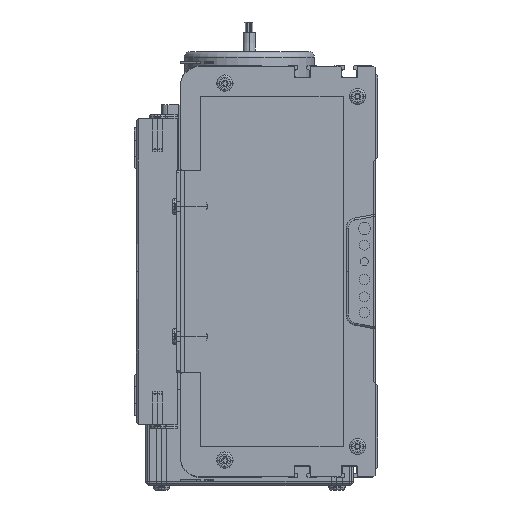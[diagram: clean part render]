
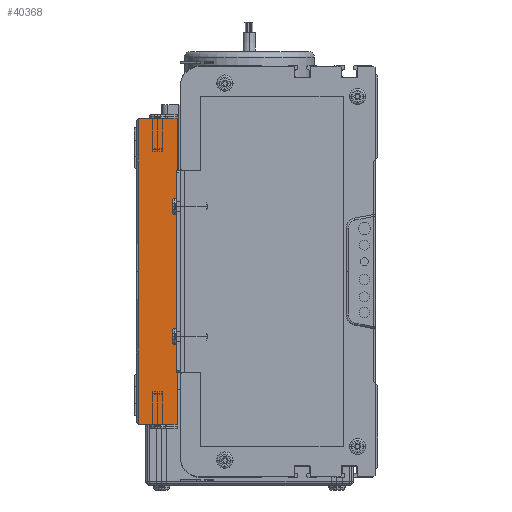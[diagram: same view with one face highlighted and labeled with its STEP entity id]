
A CAD part, left-side view. The second image highlights one B-rep face of the part: STEP entity #40368.
In plain terms, the highlighted planar face has unit normal (-1, 0, 0).
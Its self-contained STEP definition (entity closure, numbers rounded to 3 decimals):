
#32960 = DIRECTION ( 'NONE',  ( 0., 0., -1. ) ) ;
#32962 = DIRECTION ( 'NONE',  ( 1., 0., 0. ) ) ;
#32964 = CARTESIAN_POINT ( 'NONE',  ( 0., 20., 0. ) ) ;
#33014 = PLANE ( 'NONE',  #33018 ) ;
#33018 = AXIS2_PLACEMENT_3D ( 'NONE', #32964, #32962, #32960 ) ;
#33042 = FACE_OUTER_BOUND ( 'NONE', #40386, .T. ) ;
#33068 = DIRECTION ( 'NONE',  ( 0., 0., -1. ) ) ;
#33070 = VECTOR ( 'NONE', #33068, 1000. ) ;
#33072 = CARTESIAN_POINT ( 'NONE',  ( 0., 19., 0. ) ) ;
#33115 = LINE ( 'NONE', #33072, #33070 ) ;
#33118 = DIRECTION ( 'NONE',  ( 0., -1., 0. ) ) ;
#33119 = VECTOR ( 'NONE', #33118, 1000. ) ;
#33120 = CARTESIAN_POINT ( 'NONE',  ( 0., 20., -75. ) ) ;
#33121 = LINE ( 'NONE', #33120, #33119 ) ;
#33151 = VECTOR ( 'NONE', #33272, 1000. ) ;
#33153 = CARTESIAN_POINT ( 'NONE',  ( 0., 0., 0. ) ) ;
#33233 = LINE ( 'NONE', #33153, #33151 ) ;
#33261 = CARTESIAN_POINT ( 'NONE',  ( 0., 0., -75. ) ) ;
#33272 = DIRECTION ( 'NONE',  ( 0., 0., 1. ) ) ;
#33290 = CARTESIAN_POINT ( 'NONE',  ( 0., 19., -75. ) ) ;
#33376 = DIRECTION ( 'NONE',  ( 0., 0., -1. ) ) ;
#33385 = VECTOR ( 'NONE', #33376, 1000. ) ;
#33386 = CARTESIAN_POINT ( 'NONE',  ( 0., 19., 0. ) ) ;
#33391 = CARTESIAN_POINT ( 'NONE',  ( 0., 19., 0. ) ) ;
#33392 = LINE ( 'NONE', #33386, #33385 ) ;
#33811 = LINE ( 'NONE', #34019, #33831 ) ;
#33830 = DIRECTION ( 'NONE',  ( 0., -1., 0. ) ) ;
#33831 = VECTOR ( 'NONE', #33830, 1000. ) ;
#34019 = CARTESIAN_POINT ( 'NONE',  ( 0., 20., 75. ) ) ;
#34114 = CARTESIAN_POINT ( 'NONE',  ( 0., 19., 75. ) ) ;
#34673 = CARTESIAN_POINT ( 'NONE',  ( 0., 0., 75. ) ) ;
#40328 = EDGE_CURVE ( 'NONE', #40344, #40498, #33233, .T. ) ;
#40344 = VERTEX_POINT ( 'NONE', #33261 ) ;
#40361 = EDGE_CURVE ( 'NONE', #40366, #40344, #33121, .T. ) ;
#40366 = VERTEX_POINT ( 'NONE', #33290 ) ;
#40368 = ADVANCED_FACE ( 'NONE', ( #33042 ), #33014, .F. ) ;
#40369 = EDGE_CURVE ( 'NONE', #40476, #40416, #33115, .T. ) ;
#40378 = ORIENTED_EDGE ( 'NONE', *, *, #40463, .F. ) ;
#40386 = EDGE_LOOP ( 'NONE', ( #40378, #40414, #40409, #40412, #40410 ) ) ;
#40409 = ORIENTED_EDGE ( 'NONE', *, *, #40415, .T. ) ;
#40410 = ORIENTED_EDGE ( 'NONE', *, *, #40328, .T. ) ;
#40412 = ORIENTED_EDGE ( 'NONE', *, *, #40361, .T. ) ;
#40414 = ORIENTED_EDGE ( 'NONE', *, *, #40369, .T. ) ;
#40415 = EDGE_CURVE ( 'NONE', #40416, #40366, #33392, .T. ) ;
#40416 = VERTEX_POINT ( 'NONE', #33391 ) ;
#40463 = EDGE_CURVE ( 'NONE', #40476, #40498, #33811, .T. ) ;
#40476 = VERTEX_POINT ( 'NONE', #34114 ) ;
#40498 = VERTEX_POINT ( 'NONE', #34673 ) ;
